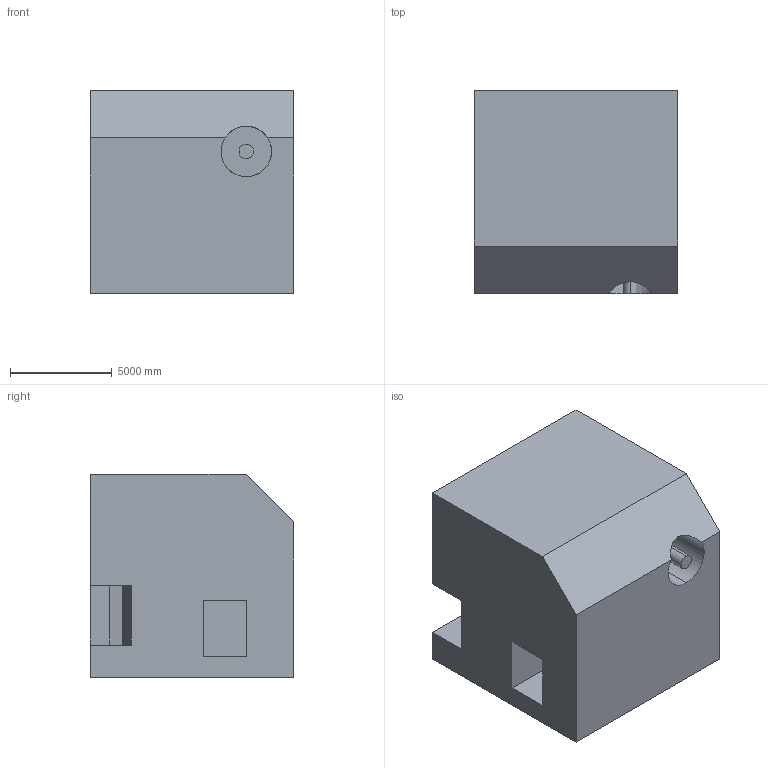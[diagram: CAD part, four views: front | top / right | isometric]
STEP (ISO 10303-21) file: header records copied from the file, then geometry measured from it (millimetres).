
FILE_DESCRIPTION (( 'STEP AP203' ), '1' );
FILE_NAME ('403.STEP', '2022-07-29T11:08:36', ( 'user' ), ( '' ), 'SwSTEP 2.0', 'SolidWorks 2021', '' );
FILE_SCHEMA (( 'CONFIG_CONTROL_DESIGN' ));
Length unit declared in the file: centimetre
Products named in the file (1): 403
Bounding box: 10000 x 10000 x 10000 mm (x, y, z)
Volume: 900957264726.7 mm3; surface area: 678523898 mm2
Topology: 1 solids, 1 shells, 26 faces, 69 edges, 46 vertices
Faces by surface type: plane 22, cylinder 4
Entity records: 882 total; most frequent: CARTESIAN_POINT 148, ORIENTED_EDGE 138, DIRECTION 129, EDGE_CURVE 69, VECTOR 59, LINE 59, VERTEX_POINT 46, AXIS2_PLACEMENT_3D 35
